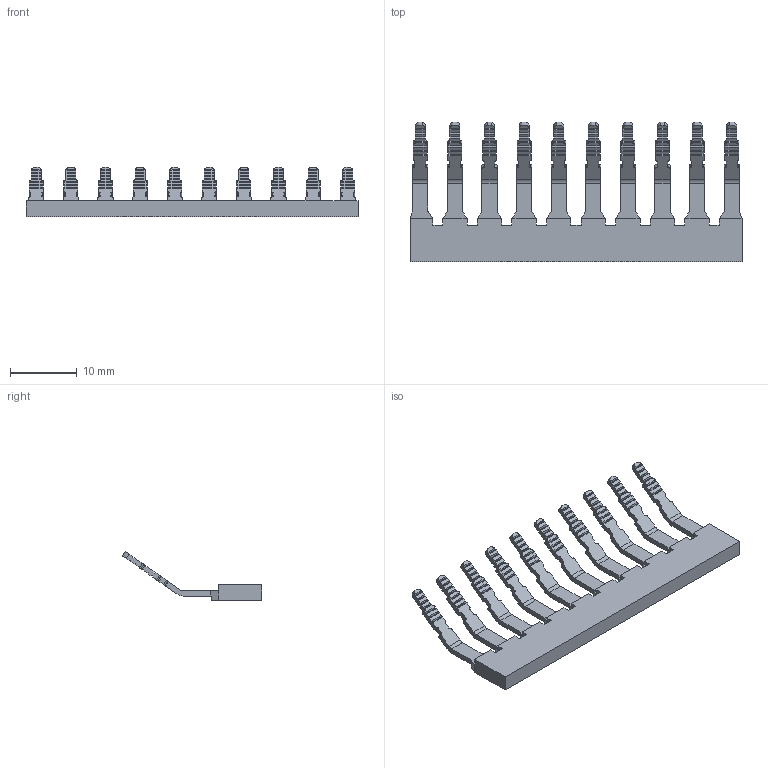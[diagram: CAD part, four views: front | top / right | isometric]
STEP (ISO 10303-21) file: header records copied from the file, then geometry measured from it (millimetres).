
FILE_DESCRIPTION(/* description */ (''),/* implementation_level */ '2;1');
FILE_NAME(/* name */ 'JEB10-2.5.stp',/* time_stamp */ '2023-02-17T15:51:59+08:00',/* author */ (''),/* organization */ (''),/* preprocessor_version */ 'ST-DEVELOPER v16.7',/* originating_system */ 'SIEMENS PLM Software NX 12.0',/* authorisation */ '');
FILE_SCHEMA (('AP203_CONFIGURATION_CONTROLLED_3D_DESIGN_OF_MECHANICAL_PARTS_AND_ASSEMBLIES_MIM_LF { 1 0 10303 403 2 1 2}'));
Length unit declared in the file: millimetre
Products named in the file (1): Admi61A869AD7qcc
Bounding box: 49.9 x 20.96 x 7.4 mm (x, y, z)
Volume: 1027.8 mm3; surface area: 1879.4 mm2
Topology: 1 solids, 1 shells, 782 faces, 2320 edges, 1540 vertices
Faces by surface type: plane 622, cylinder 160
Entity records: 26156 total; most frequent: CARTESIAN_POINT 4733, ORIENTED_EDGE 4640, DIRECTION 4296, EDGE_CURVE 2320, LINE 1850, VECTOR 1850, VERTEX_POINT 1540, AXIS2_PLACEMENT_3D 1223
